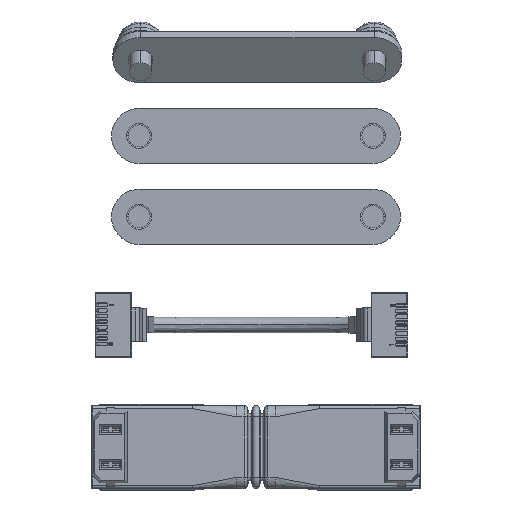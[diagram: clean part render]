
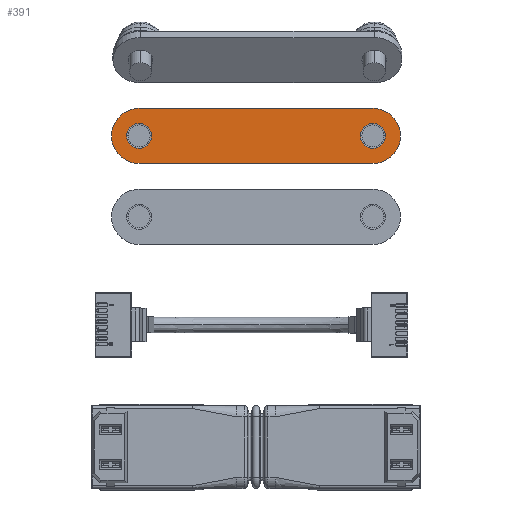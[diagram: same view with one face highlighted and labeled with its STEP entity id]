
A CAD part, top view. The second image highlights one B-rep face of the part: STEP entity #391.
In plain terms, the highlighted planar face has unit normal (0, 0, 1).
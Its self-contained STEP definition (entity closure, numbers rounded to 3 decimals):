
#179=CARTESIAN_POINT('',(-32.4,153.15,-152.36));
#180=DIRECTION('',(0.,0.,1.));
#181=DIRECTION('',(-1.,0.,0.));
#182=AXIS2_PLACEMENT_3D('',#179,#180,#181);
#184=CARTESIAN_POINT('',(-32.4,153.15,-152.36));
#185=DIRECTION('',(0.,0.,1.));
#186=DIRECTION('',(1.,0.,0.));
#187=AXIS2_PLACEMENT_3D('',#184,#185,#186);
#189=CARTESIAN_POINT('',(10.,153.15,-152.36));
#190=DIRECTION('',(0.,0.,1.));
#191=DIRECTION('',(-1.,0.,0.));
#192=AXIS2_PLACEMENT_3D('',#189,#190,#191);
#194=CARTESIAN_POINT('',(10.,153.15,-152.36));
#195=DIRECTION('',(0.,0.,1.));
#196=DIRECTION('',(1.,0.,0.));
#197=AXIS2_PLACEMENT_3D('',#194,#195,#196);
#199=CARTESIAN_POINT('',(10.,153.15,-152.36));
#200=DIRECTION('',(0.,0.,1.));
#201=DIRECTION('',(0.,-1.,0.));
#202=AXIS2_PLACEMENT_3D('',#199,#200,#201);
#204=DIRECTION('',(1.,0.,0.));
#205=VECTOR('',#204,42.4);
#206=CARTESIAN_POINT('',(-32.4,148.15,-152.36));
#207=LINE('',#206,#205);
#208=CARTESIAN_POINT('',(-32.4,153.15,-152.36));
#209=DIRECTION('',(0.,0.,1.));
#210=DIRECTION('',(0.,1.,0.));
#211=AXIS2_PLACEMENT_3D('',#208,#209,#210);
#213=DIRECTION('',(-1.,0.,0.));
#214=VECTOR('',#213,42.4);
#215=CARTESIAN_POINT('',(10.,158.15,-152.36));
#216=LINE('',#215,#214);
#225=CARTESIAN_POINT('',(-30.15,153.15,-152.36));
#226=CARTESIAN_POINT('',(-34.65,153.15,-152.36));
#227=VERTEX_POINT('',#225);
#228=VERTEX_POINT('',#226);
#229=CARTESIAN_POINT('',(12.25,153.15,-152.36));
#230=CARTESIAN_POINT('',(7.75,153.15,-152.36));
#231=VERTEX_POINT('',#229);
#232=VERTEX_POINT('',#230);
#237=CARTESIAN_POINT('',(10.,148.15,-152.36));
#238=CARTESIAN_POINT('',(10.,158.15,-152.36));
#239=VERTEX_POINT('',#237);
#240=VERTEX_POINT('',#238);
#245=CARTESIAN_POINT('',(-32.4,158.15,-152.36));
#246=CARTESIAN_POINT('',(-32.4,148.15,-152.36));
#247=VERTEX_POINT('',#245);
#248=VERTEX_POINT('',#246);
#368=CARTESIAN_POINT('',(-11.2,153.15,-152.36));
#369=DIRECTION('',(0.,0.,1.));
#370=DIRECTION('',(1.,0.,0.));
#371=AXIS2_PLACEMENT_3D('',#368,#369,#370);
#372=PLANE('',#371);
#373=ORIENTED_EDGE('',*,*,#292,.F.);
#374=ORIENTED_EDGE('',*,*,#313,.F.);
#375=ORIENTED_EDGE('',*,*,#335,.F.);
#376=ORIENTED_EDGE('',*,*,#354,.F.);
#377=EDGE_LOOP('',(#373,#374,#375,#376));
#378=FACE_OUTER_BOUND('',#377,.F.);
#380=ORIENTED_EDGE('',*,*,#379,.T.);
#382=ORIENTED_EDGE('',*,*,#381,.T.);
#383=EDGE_LOOP('',(#380,#382));
#384=FACE_BOUND('',#383,.F.);
#386=ORIENTED_EDGE('',*,*,#385,.T.);
#388=ORIENTED_EDGE('',*,*,#387,.T.);
#389=EDGE_LOOP('',(#386,#388));
#390=FACE_BOUND('',#389,.F.);
#183=CIRCLE('',#182,2.25);
#188=CIRCLE('',#187,2.25);
#193=CIRCLE('',#192,2.25);
#198=CIRCLE('',#197,2.25);
#203=CIRCLE('',#202,5.);
#212=CIRCLE('',#211,5.);
#292=EDGE_CURVE('',#239,#240,#203,.T.);
#313=EDGE_CURVE('',#248,#239,#207,.T.);
#335=EDGE_CURVE('',#247,#248,#212,.T.);
#354=EDGE_CURVE('',#240,#247,#216,.T.);
#379=EDGE_CURVE('',#232,#231,#193,.T.);
#381=EDGE_CURVE('',#231,#232,#198,.T.);
#385=EDGE_CURVE('',#228,#227,#183,.T.);
#387=EDGE_CURVE('',#227,#228,#188,.T.);
#391=ADVANCED_FACE('',(#378,#384,#390),#372,.T.);
